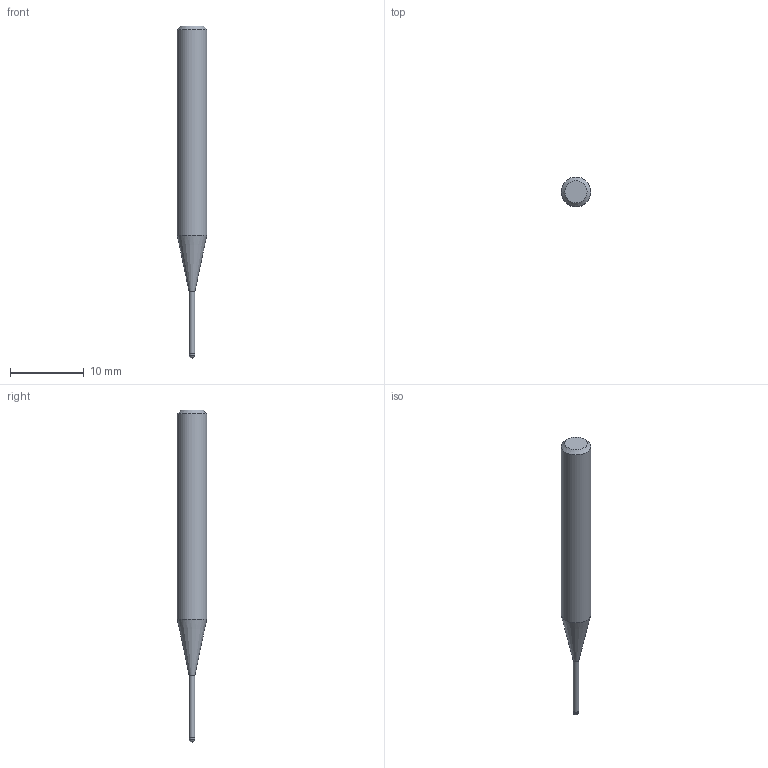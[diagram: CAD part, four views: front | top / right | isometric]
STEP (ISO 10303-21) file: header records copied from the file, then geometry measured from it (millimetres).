
FILE_DESCRIPTION((''),'2;1');
FILE_NAME('C:\Users\nsx150\AppData\Local\Temp\Mastercam 2021\3SYKECWX22\TEMP.step','2021-04-22T10:01:46',(''),(''),'STEP Write','Mastercam 2021 ... CNC Software, Inc.','');
FILE_SCHEMA(('AUTOMOTIVE_DESIGN'));
Length unit declared in the file: millimetre
Products named in the file (1): None
Bounding box: 4 x 4 x 45 mm (x, y, z)
Volume: 398.4 mm3; surface area: 446 mm2
Topology: 2 solids, 2 shells, 9 faces, 14 edges, 8 vertices
Faces by surface type: plane 3, cylinder 3, cone 2, sphere 1
Full cylindrical faces by diameter (mm): 0.76 x1, 0.8 x1, 4 x1
Entity records: 211 total; most frequent: DIRECTION 36, CARTESIAN_POINT 25, AXIS2_PLACEMENT_3D 18, ORIENTED_EDGE 14, EDGE_LOOP 14, STYLED_ITEM 12, ADVANCED_FACE 9, FACE_BOUND 8
